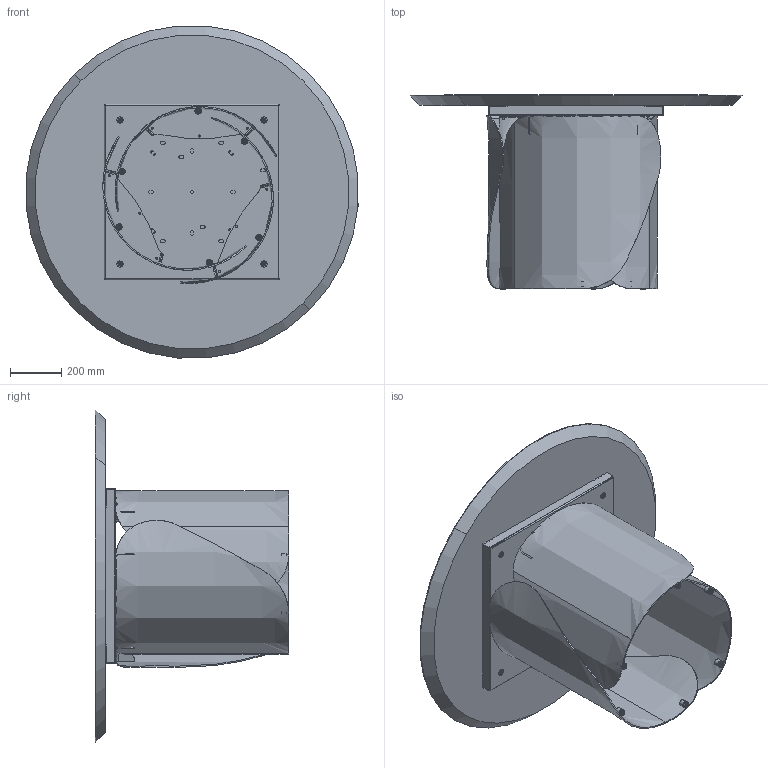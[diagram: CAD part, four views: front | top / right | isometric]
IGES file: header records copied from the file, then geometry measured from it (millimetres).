
Start section: SolidWorks IGES file using analytic representation for surfaces
Global section: file name: Y:\eforma\TECNICO\SOLIDWORKS\E-FORMA\1-TAVOLI\ONDA\02 parts\ON05W.IGS; native system: SolidWorks 2022; preprocessor: SolidWorks 2022; author: eforma.tech; date: 240806.152845; units: millimetre
Bounding box: 1295.05 x 756 x 1295.05 mm (x, y, z)
Volume: 61106494 mm3; surface area: 7369351 mm2
Topology: 62 solids, 62 shells, 1703 faces, 4015 edges, 2464 vertices
Faces by surface type: revolution 969, plane 674, bspline 60
